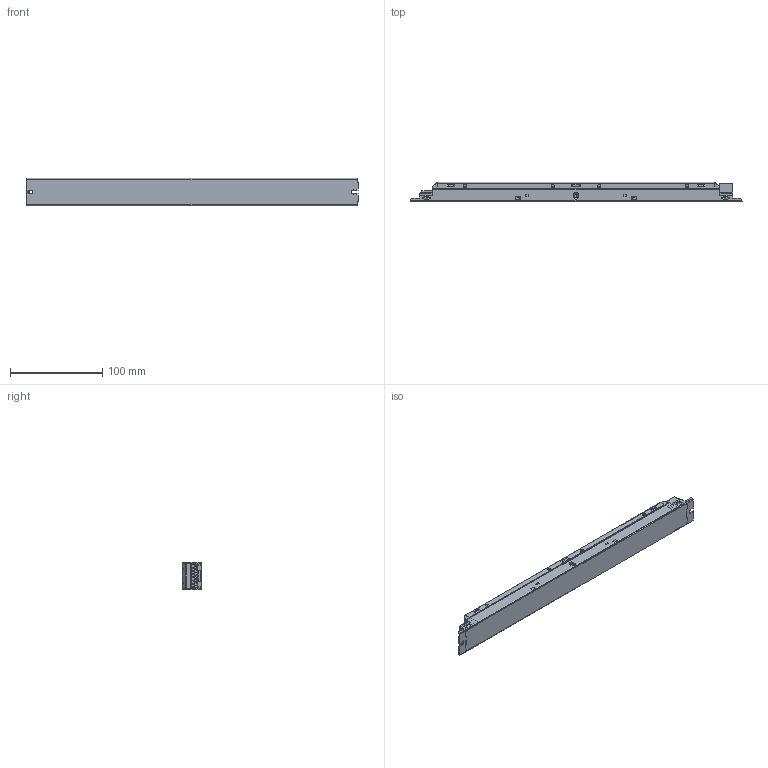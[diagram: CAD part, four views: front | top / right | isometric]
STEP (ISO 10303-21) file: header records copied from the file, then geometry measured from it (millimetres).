
FILE_DESCRIPTION (( 'STEP AP214' ), '1' );
FILE_NAME ('9C1-4542889-EN-01.STEP', '2025-03-24T06:33:11', ( '' ), ( '' ), 'SwSTEP 2.0', 'SolidWorks 2023', '' );
FILE_SCHEMA (( 'AUTOMOTIVE_DESIGN' ));
Length unit declared in the file: millimetre
Products named in the file (1): 9C1-4542889-EN-01
Bounding box: 359 x 21 x 30 mm (x, y, z)
Volume: 193129.3 mm3; surface area: 47303.3 mm2
Topology: 2 solids, 2 shells, 1185 faces, 3367 edges, 2192 vertices
Faces by surface type: plane 746, cylinder 351, bspline 67, cone 16, sphere 5
Entity records: 41602 total; most frequent: CARTESIAN_POINT 11787, ORIENTED_EDGE 6726, DIRECTION 5461, EDGE_CURVE 3363, VECTOR 2431, LINE 2431, VERTEX_POINT 2192, AXIS2_PLACEMENT_3D 1515
